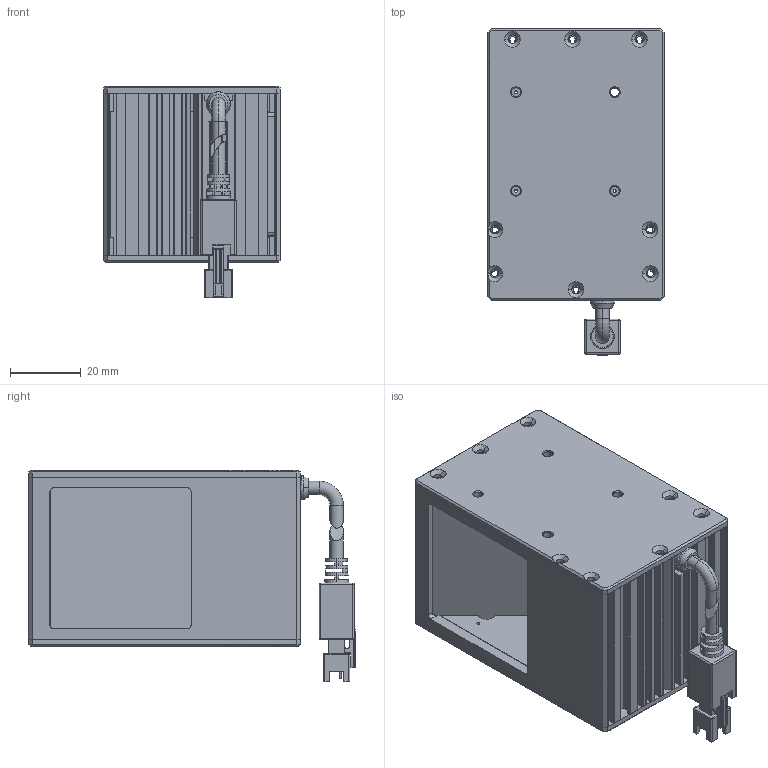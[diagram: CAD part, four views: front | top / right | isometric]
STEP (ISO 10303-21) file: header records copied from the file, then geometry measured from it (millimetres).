
FILE_DESCRIPTION (( 'STEP AP203' ), '1' );
FILE_NAME ('PPX-CO50S-W.STEP', '2022-09-12T01:00:40', ( 'Windows 蚚誧' ), ( 'Microsoft' ), 'SwSTEP 2.0', 'SolidWorks 2016', '' );
FILE_SCHEMA (( 'CONFIG_CONTROL_DESIGN' ));
Length unit declared in the file: millimetre
Products named in the file (2): PPX-CO50S-W
Bounding box: 50 x 92.55 x 60 mm (x, y, z)
Surface area: 41971.3 mm2 (no closed solid volume)
Topology: 0 solids, 11 shells, 491 faces, 1716 edges, 1193 vertices
Faces by surface type: plane 228, cylinder 191, cone 56, torus 10, sphere 4, bspline 2
Entity records: 18810 total; most frequent: CARTESIAN_POINT 3705, DIRECTION 3222, ORIENTED_EDGE 2848, EDGE_CURVE 1712, VERTEX_POINT 1193, LINE 1094, VECTOR 1094, AXIS2_PLACEMENT_3D 1064
